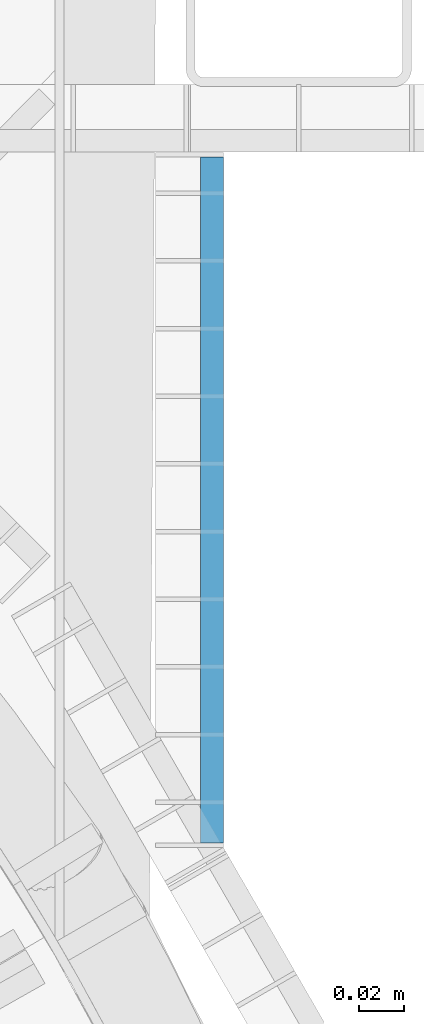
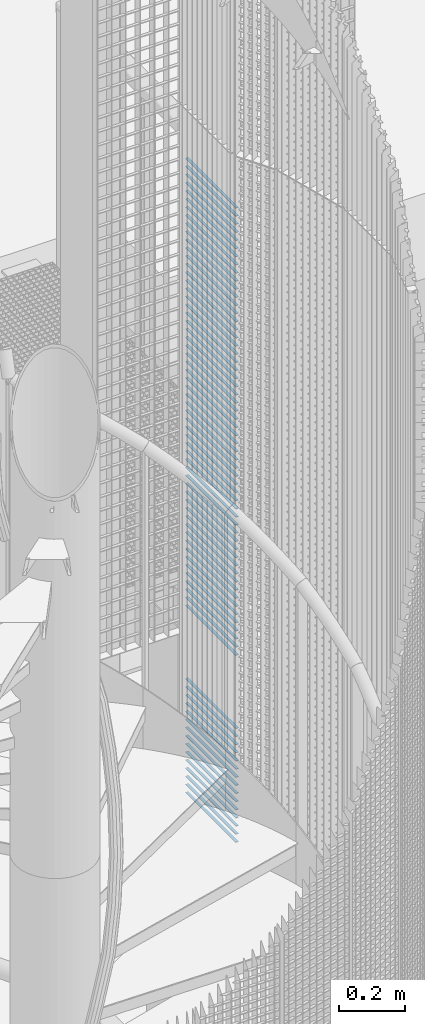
# One storey, part 285 of 1183: 71 beams, 1 element without a shape of its own.
"""IFC2X3 building model written with IfcOpenShell, lengths in millimetres."""

import ifcopenshell
import ifcopenshell.guid

model = None  # the IFC model being written
_history = None  # IfcOwnerHistory: only IFC2X3 demands one
_inside = {}  # id of a spatial element -> (the spatial element, [elements in it])
_under = {}  # id of a project, library or spatial element -> (it, [spatial elements below it])
_declared = {}  # id of a project -> (the project, [libraries it declares])
_typed = {}  # id of a type object -> (the type object, [elements of that type])
_made_of = {}  # id of a material, layer set ... -> (it, [elements and type objects made of it])


def new_model(schema):
    """Start an empty IFC model of exactly this schema.

    Asked for "IFC4X3", IfcOpenShell would pick the latest addendum, in which some entities
    have other attributes; the version numbers below select the first issue.
    IFC2X3 requires an IfcOwnerHistory on every rooted entity: one is made here for all.
    """
    global model, _history
    if schema == "IFC4X3":
        model = ifcopenshell.file(schema_version=(4, 3, 0, 0))
    else:
        model = ifcopenshell.file(schema=schema)
    _inside.clear()
    _under.clear()
    _declared.clear()
    _typed.clear()
    _made_of.clear()
    _history = None
    if model.schema == "IFC2X3":
        org = make("IfcOrganization", Name="unknown")
        user = make(
            "IfcPersonAndOrganization",
            ThePerson=make("IfcPerson", FamilyName="unknown"),
            TheOrganization=org,
        )
        app = make(
            "IfcApplication",
            ApplicationDeveloper=org,
            Version="unknown",
            ApplicationFullName="unknown",
            ApplicationIdentifier="unknown",
        )
        _history = make(
            "IfcOwnerHistory",
            OwningUser=user,
            OwningApplication=app,
            ChangeAction="ADDED",
            CreationDate=0,
        )
    return model


def make(cls, **values):
    """One entity of the class cls with the attributes given. An attribute that is None is left unset."""
    return model.create_entity(
        cls, **{name: value for name, value in values.items() if value is not None}
    )


def rooted(cls, **values):
    """An entity with a GlobalId (a new one), such as an element, a storey or a relation."""
    return make(cls, GlobalId=ifcopenshell.guid.new(), OwnerHistory=_history, **values)


def si_unit(unit_type, name, prefix=None):
    """IfcSIUnit, for example si_unit("LENGTHUNIT", "METRE", prefix="MILLI")."""
    return make("IfcSIUnit", UnitType=unit_type, Prefix=prefix, Name=name)


def assignment(units):
    """IfcUnitAssignment: the units of a project."""
    return None if units is None else make("IfcUnitAssignment", Units=units)


def point(xyz):
    """IfcCartesianPoint."""
    return None if xyz is None else make("IfcCartesianPoint", Coordinates=xyz)


def direction(xyz):
    """IfcDirection."""
    return None if xyz is None else make("IfcDirection", DirectionRatios=xyz)


def frame(location, z_axis=None, x_axis=None):
    """IfcAxis2Placement3D, a coordinate frame: its origin and axes. An axis left out is left unset."""
    return make(
        "IfcAxis2Placement3D",
        Location=point(location),
        Axis=direction(z_axis),
        RefDirection=direction(x_axis),
    )


def frame_2d(location, x_axis=None):
    """IfcAxis2Placement2D, a coordinate frame in the plane: its origin and x axis."""
    return make(
        "IfcAxis2Placement2D", Location=point(location), RefDirection=direction(x_axis)
    )


def origin_with_axes():
    """The frame at (0, 0, 0) with the z axis (0, 0, 1) and the x axis (1, 0, 0) written out."""
    return frame((0.0, 0.0, 0.0), z_axis=(0.0, 0.0, 1.0), x_axis=(1.0, 0.0, 0.0))


def origin_2d_with_axis():
    """The frame at (0, 0) in the plane with the x axis (1, 0) written out."""
    return frame_2d((0.0, 0.0), x_axis=(1.0, 0.0))


def place(relative_to, where):
    """IfcLocalPlacement: puts the frame where relative to a parent placement (None: the world)."""
    return make(
        "IfcLocalPlacement", PlacementRelTo=relative_to, RelativePlacement=where
    )


def context(
    kind, dimensions, precision=None, world=None, true_north=None, identifier=None
):
    """IfcGeometricRepresentationContext, for example the 3D "Model" context."""
    return make(
        "IfcGeometricRepresentationContext",
        ContextIdentifier=identifier,
        ContextType=kind,
        CoordinateSpaceDimension=dimensions,
        Precision=precision,
        WorldCoordinateSystem=world,
        TrueNorth=true_north,
    )


def subcontext(parent, identifier, kind, view, scale=None):
    """IfcGeometricRepresentationSubContext, for example "Body" below "Model"."""
    return make(
        "IfcGeometricRepresentationSubContext",
        ContextIdentifier=identifier,
        ContextType=kind,
        ParentContext=parent,
        TargetScale=scale,
        TargetView=view,
    )


def project(units=None, contexts=None):
    """IfcProject with its units and contexts."""
    return rooted(
        "IfcProject",
        Name="project",
        RepresentationContexts=contexts,
        UnitsInContext=assignment(units),
    )


def spatial(cls, under=None, at=None, **own):
    """A site, building, storey or space (cls), placed at a placement, below another one or the project."""
    s = rooted(cls, ObjectPlacement=at, **own)
    if under is not None:
        _under.setdefault(under.id(), (under, []))[1].append(s)
    return s


def profile(cls, at=None, kind="AREA", **sizes):
    """A parametric profile (cls). Its sizes go by their IFC names, for example OverallWidth=200.0."""
    return make(cls, ProfileType=kind, Position=at, **sizes)


def rectangle(**sizes):
    """IfcRectangleProfileDef."""
    return profile("IfcRectangleProfileDef", **sizes)


def extrude(swept, where, along, depth):
    """IfcExtrudedAreaSolid: the profile swept, set in the frame where, extruded along a direction by depth."""
    return make(
        "IfcExtrudedAreaSolid",
        SweptArea=swept,
        Position=where,
        ExtrudedDirection=direction(along),
        Depth=depth,
    )


def shape(context_of_items, identifier, shape_type, items):
    """IfcShapeRepresentation: the items that make up one representation, for example the "Body"."""
    return make(
        "IfcShapeRepresentation",
        ContextOfItems=context_of_items,
        RepresentationIdentifier=identifier,
        RepresentationType=shape_type,
        Items=items,
    )


def material(Name=None, Category=None):
    """IfcMaterial."""
    return make("IfcMaterial", Name=Name, Category=Category)


def made_of(thing, what):
    """Note that an element or type object is made of a material, layer set ...; save() writes the relation."""
    if what is not None:
        _made_of.setdefault(what.id(), (what, []))[1].append(thing)
    return thing


def type_object(cls, material=None, **own):
    """A type object (cls), such as IfcWallType, which elements share."""
    return made_of(rooted(cls, **own), material)


def element(
    cls,
    number,
    at=None,
    inside=None,
    cuts=None,
    type_object=None,
    material=None,
    context=None,
    identifier="Body",
    shape_type=None,
    held_by="IfcProductDefinitionShape",
    body=None,
    shapes=None,
    **own,
):
    """One element of the class cls, such as IfcWall. Its Tag is "e" and its number.

    at: its placement. inside: the storey or other place that contains it. cuts: it is an
    opening in that element (IfcRelVoidsElement). A single representation is given by context,
    identifier, shape_type and body (its items); several are given by shapes. held_by: the class
    of the entity that holds the representations. save() writes the other relations.
    """
    e = rooted(cls, Tag="e%d" % number, ObjectPlacement=at, **own)
    if body is not None:
        shapes = [shape(context, identifier, shape_type, body)]
    if shapes is not None:
        e.Representation = make(held_by, Representations=shapes)
    if inside is not None:
        _inside.setdefault(inside.id(), (inside, []))[1].append(e)
    if cuts is not None:
        rooted(
            "IfcRelVoidsElement", RelatingBuildingElement=cuts, RelatedOpeningElement=e
        )
    if type_object is not None:
        _typed.setdefault(type_object.id(), (type_object, []))[1].append(e)
    return made_of(e, material)


def aggregate(whole, parts):
    """IfcRelAggregates: a whole, such as a stair, and the parts it consists of."""
    return rooted("IfcRelAggregates", RelatingObject=whole, RelatedObjects=parts)


def save(model, path):
    """Write the relations noted so far, then the file.

    IfcRelAggregates (storeys below a building ...), IfcRelContainedInSpatialStructure (elements
    in a storey), IfcRelDefinesByType, IfcRelAssociatesMaterial and IfcRelDeclares: one each for
    every whole, place, type object, material and project.
    """
    for whole, parts in _under.values():
        aggregate(whole, parts)
    for where, things in _inside.values():
        rooted(
            "IfcRelContainedInSpatialStructure",
            RelatedElements=things,
            RelatingStructure=where,
        )
    for kind, things in _typed.values():
        rooted("IfcRelDefinesByType", RelatedObjects=things, RelatingType=kind)
    for what, things in _made_of.values():
        rooted("IfcRelAssociatesMaterial", RelatedObjects=things, RelatingMaterial=what)
    for by, libraries in _declared.values():
        rooted("IfcRelDeclares", RelatingContext=by, RelatedDefinitions=libraries)
    model.write(path)


model = new_model("IFC2X3")

# Units and contexts
model_context = context("Model", 3, precision=1e-05, world=origin_with_axes())
body_context = subcontext(model_context, "Body", "Model", "MODEL_VIEW")
ifc_project = project(units=[si_unit("LENGTHUNIT", "METRE", prefix="MILLI"), si_unit("AREAUNIT", "SQUARE_METRE"), si_unit("VOLUMEUNIT", "CUBIC_METRE"), si_unit("MASSUNIT", "GRAM", prefix="KILO"), si_unit("TIMEUNIT", "SECOND"), si_unit("PLANEANGLEUNIT", "RADIAN"), si_unit("SOLIDANGLEUNIT", "STERADIAN"), si_unit("THERMODYNAMICTEMPERATUREUNIT", "DEGREE_CELSIUS"), si_unit("LUMINOUSINTENSITYUNIT", "LUMEN")], contexts=[model_context])

# Site, building, storey
site_placement = place(None, origin_with_axes())
site = spatial("IfcSite", under=ifc_project, at=site_placement, Name="Undefined", CompositionType="ELEMENT")
building_placement = place(site_placement, origin_with_axes())
building = spatial("IfcBuilding", under=site, at=building_placement, Name="Undefined", CompositionType="ELEMENT")
storey_placement = place(building_placement, origin_with_axes())
storey = spatial("IfcBuildingStorey", under=building, at=storey_placement, Name="Undefined", CompositionType="ELEMENT", Elevation=0.0)

# Assembly, beams
assembly_placement = place(storey_placement, origin_with_axes())
assembly = element("IfcElementAssembly", 1, at=assembly_placement, inside=storey, Name="BORDURE", AssemblyPlace="NOTDEFINED", PredefinedType="NOTDEFINED")
ifc_material = material(Name="STEEL/S235JR")
beam_type = type_object("IfcBeamType", Name="PL2*10", PredefinedType="NOTDEFINED")
beam_1_placement = place(assembly_placement, frame((961.586915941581, 564.782669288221, 11790.0), z_axis=(1.0, 0.0, 0.0), x_axis=(0.0, 1.0, 0.0)))
beam_1 = element("IfcBeam", 2, at=beam_1_placement, type_object=beam_type, material=ifc_material, Name="ENTRETOISE", context=body_context, shape_type="SweptSolid", body=[
    extrude(rectangle(XDim=2.0, YDim=10.0, at=origin_2d_with_axis()), frame((303.999999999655, 0.0, 0.0), z_axis=(-1.0, 0.0, 0.0), x_axis=(0.0, -1.0, 0.0)), (0.0, 0.0, 1.0), 304.0),
])
beam_2_placement = place(assembly_placement, frame((961.586915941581, 564.782669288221, 11760.0), z_axis=(1.0, 0.0, 0.0), x_axis=(0.0, 1.0, 0.0)))
beam_2 = element("IfcBeam", 3, at=beam_2_placement, type_object=beam_type, material=ifc_material, Name="ENTRETOISE", context=body_context, shape_type="SweptSolid", body=[
    extrude(rectangle(XDim=2.0, YDim=10.0, at=origin_2d_with_axis()), frame((303.999999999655, 0.0, 0.0), z_axis=(-1.0, 0.0, 0.0), x_axis=(0.0, -1.0, 0.0)), (0.0, 0.0, 1.0), 304.0),
])
beam_3_placement = place(assembly_placement, frame((961.586915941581, 564.782669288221, 11730.0), z_axis=(1.0, 0.0, 0.0), x_axis=(0.0, 1.0, 0.0)))
beam_3 = element("IfcBeam", 4, at=beam_3_placement, type_object=beam_type, material=ifc_material, Name="ENTRETOISE", context=body_context, shape_type="SweptSolid", body=[
    extrude(rectangle(XDim=2.0, YDim=10.0, at=origin_2d_with_axis()), frame((303.999999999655, 0.0, 0.0), z_axis=(-1.0, 0.0, 0.0), x_axis=(0.0, -1.0, 0.0)), (0.0, 0.0, 1.0), 304.0),
])
beam_4_placement = place(assembly_placement, frame((961.586915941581, 564.782669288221, 11700.0), z_axis=(1.0, 0.0, 0.0), x_axis=(0.0, 1.0, 0.0)))
beam_4 = element("IfcBeam", 5, at=beam_4_placement, type_object=beam_type, material=ifc_material, Name="ENTRETOISE", context=body_context, shape_type="SweptSolid", body=[
    extrude(rectangle(XDim=2.0, YDim=10.0, at=origin_2d_with_axis()), frame((303.999999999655, 0.0, 0.0), z_axis=(-1.0, 0.0, 0.0), x_axis=(0.0, -1.0, 0.0)), (0.0, 0.0, 1.0), 304.0),
])
beam_5_placement = place(assembly_placement, frame((961.586915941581, 564.782669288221, 11670.0), z_axis=(1.0, 0.0, 0.0), x_axis=(0.0, 1.0, 0.0)))
beam_5 = element("IfcBeam", 6, at=beam_5_placement, type_object=beam_type, material=ifc_material, Name="ENTRETOISE", context=body_context, shape_type="SweptSolid", body=[
    extrude(rectangle(XDim=2.0, YDim=10.0, at=origin_2d_with_axis()), frame((303.999999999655, 0.0, 0.0), z_axis=(-1.0, 0.0, 0.0), x_axis=(0.0, -1.0, 0.0)), (0.0, 0.0, 1.0), 304.0),
])
beam_6_placement = place(assembly_placement, frame((961.586915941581, 564.782669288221, 11640.0), z_axis=(1.0, 0.0, 0.0), x_axis=(0.0, 1.0, 0.0)))
beam_6 = element("IfcBeam", 7, at=beam_6_placement, type_object=beam_type, material=ifc_material, Name="ENTRETOISE", context=body_context, shape_type="SweptSolid", body=[
    extrude(rectangle(XDim=2.0, YDim=10.0, at=origin_2d_with_axis()), frame((303.999999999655, 0.0, 0.0), z_axis=(-1.0, 0.0, 0.0), x_axis=(0.0, -1.0, 0.0)), (0.0, 0.0, 1.0), 304.0),
])
beam_7_placement = place(assembly_placement, frame((961.586915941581, 564.782669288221, 11610.0), z_axis=(1.0, 0.0, 0.0), x_axis=(0.0, 1.0, 0.0)))
beam_7 = element("IfcBeam", 8, at=beam_7_placement, type_object=beam_type, material=ifc_material, Name="ENTRETOISE", context=body_context, shape_type="SweptSolid", body=[
    extrude(rectangle(XDim=2.0, YDim=10.0, at=origin_2d_with_axis()), frame((303.999999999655, 0.0, 0.0), z_axis=(-1.0, 0.0, 0.0), x_axis=(0.0, -1.0, 0.0)), (0.0, 0.0, 1.0), 304.0),
])
beam_8_placement = place(assembly_placement, frame((961.586915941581, 564.782669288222, 11580.0), z_axis=(1.0, 0.0, 0.0), x_axis=(0.0, 1.0, 0.0)))
beam_8 = element("IfcBeam", 9, at=beam_8_placement, type_object=beam_type, material=ifc_material, Name="ENTRETOISE", context=body_context, shape_type="SweptSolid", body=[
    extrude(rectangle(XDim=2.0, YDim=10.0, at=origin_2d_with_axis()), frame((303.999999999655, 0.0, 0.0), z_axis=(-1.0, 0.0, 0.0), x_axis=(0.0, -1.0, 0.0)), (0.0, 0.0, 1.0), 304.0),
])
beam_9_placement = place(assembly_placement, frame((961.586915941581, 564.782669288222, 11550.0), z_axis=(1.0, 0.0, 0.0), x_axis=(0.0, 1.0, 0.0)))
beam_9 = element("IfcBeam", 10, at=beam_9_placement, type_object=beam_type, material=ifc_material, Name="ENTRETOISE", context=body_context, shape_type="SweptSolid", body=[
    extrude(rectangle(XDim=2.0, YDim=10.0, at=origin_2d_with_axis()), frame((303.999999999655, 0.0, 0.0), z_axis=(-1.0, 0.0, 0.0), x_axis=(0.0, -1.0, 0.0)), (0.0, 0.0, 1.0), 304.0),
])
beam_10_placement = place(assembly_placement, frame((961.586915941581, 564.782669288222, 11520.0), z_axis=(1.0, 0.0, 0.0), x_axis=(0.0, 1.0, 0.0)))
beam_10 = element("IfcBeam", 11, at=beam_10_placement, type_object=beam_type, material=ifc_material, Name="ENTRETOISE", context=body_context, shape_type="SweptSolid", body=[
    extrude(rectangle(XDim=2.0, YDim=10.0, at=origin_2d_with_axis()), frame((303.999999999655, 0.0, 0.0), z_axis=(-1.0, 0.0, 0.0), x_axis=(0.0, -1.0, 0.0)), (0.0, 0.0, 1.0), 304.0),
])
beam_11_placement = place(assembly_placement, frame((961.586915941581, 564.782669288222, 11490.0), z_axis=(1.0, 0.0, 0.0), x_axis=(0.0, 1.0, 0.0)))
beam_11 = element("IfcBeam", 12, at=beam_11_placement, type_object=beam_type, material=ifc_material, Name="ENTRETOISE", context=body_context, shape_type="SweptSolid", body=[
    extrude(rectangle(XDim=2.0, YDim=10.0, at=origin_2d_with_axis()), frame((303.999999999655, 0.0, 0.0), z_axis=(-1.0, 0.0, 0.0), x_axis=(0.0, -1.0, 0.0)), (0.0, 0.0, 1.0), 304.0),
])
beam_12_placement = place(assembly_placement, frame((961.586915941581, 564.782669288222, 11460.0), z_axis=(1.0, 0.0, 0.0), x_axis=(0.0, 1.0, 0.0)))
beam_12 = element("IfcBeam", 13, at=beam_12_placement, type_object=beam_type, material=ifc_material, Name="ENTRETOISE", context=body_context, shape_type="SweptSolid", body=[
    extrude(rectangle(XDim=2.0, YDim=10.0, at=origin_2d_with_axis()), frame((303.999999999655, 0.0, 0.0), z_axis=(-1.0, 0.0, 0.0), x_axis=(0.0, -1.0, 0.0)), (0.0, 0.0, 1.0), 304.0),
])
beam_13_placement = place(assembly_placement, frame((961.586915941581, 564.782669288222, 11430.0), z_axis=(1.0, 0.0, 0.0), x_axis=(0.0, 1.0, 0.0)))
beam_13 = element("IfcBeam", 14, at=beam_13_placement, type_object=beam_type, material=ifc_material, Name="ENTRETOISE", context=body_context, shape_type="SweptSolid", body=[
    extrude(rectangle(XDim=2.0, YDim=10.0, at=origin_2d_with_axis()), frame((303.999999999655, 0.0, 0.0), z_axis=(-1.0, 0.0, 0.0), x_axis=(0.0, -1.0, 0.0)), (0.0, 0.0, 1.0), 304.0),
])
beam_14_placement = place(assembly_placement, frame((961.586915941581, 564.782669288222, 11400.0), z_axis=(1.0, 0.0, 0.0), x_axis=(0.0, 1.0, 0.0)))
beam_14 = element("IfcBeam", 15, at=beam_14_placement, type_object=beam_type, material=ifc_material, Name="ENTRETOISE", context=body_context, shape_type="SweptSolid", body=[
    extrude(rectangle(XDim=2.0, YDim=10.0, at=origin_2d_with_axis()), frame((303.999999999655, 0.0, 0.0), z_axis=(-1.0, 0.0, 0.0), x_axis=(0.0, -1.0, 0.0)), (0.0, 0.0, 1.0), 304.0),
])
beam_15_placement = place(assembly_placement, frame((961.586915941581, 564.782669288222, 11370.0), z_axis=(1.0, 0.0, 0.0), x_axis=(0.0, 1.0, 0.0)))
beam_15 = element("IfcBeam", 16, at=beam_15_placement, type_object=beam_type, material=ifc_material, Name="ENTRETOISE", context=body_context, shape_type="SweptSolid", body=[
    extrude(rectangle(XDim=2.0, YDim=10.0, at=origin_2d_with_axis()), frame((303.999999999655, 0.0, 0.0), z_axis=(-1.0, 0.0, 0.0), x_axis=(0.0, -1.0, 0.0)), (0.0, 0.0, 1.0), 304.0),
])
beam_16_placement = place(assembly_placement, frame((961.586915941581, 564.782669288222, 11340.0), z_axis=(1.0, 0.0, 0.0), x_axis=(0.0, 1.0, 0.0)))
beam_16 = element("IfcBeam", 17, at=beam_16_placement, type_object=beam_type, material=ifc_material, Name="ENTRETOISE", context=body_context, shape_type="SweptSolid", body=[
    extrude(rectangle(XDim=2.0, YDim=10.0, at=origin_2d_with_axis()), frame((303.999999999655, 0.0, 0.0), z_axis=(-1.0, 0.0, 0.0), x_axis=(0.0, -1.0, 0.0)), (0.0, 0.0, 1.0), 304.0),
])
beam_17_placement = place(assembly_placement, frame((961.586915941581, 564.782669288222, 11310.0), z_axis=(1.0, 0.0, 0.0), x_axis=(0.0, 1.0, 0.0)))
beam_17 = element("IfcBeam", 18, at=beam_17_placement, type_object=beam_type, material=ifc_material, Name="ENTRETOISE", context=body_context, shape_type="SweptSolid", body=[
    extrude(rectangle(XDim=2.0, YDim=10.0, at=origin_2d_with_axis()), frame((303.999999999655, 0.0, 0.0), z_axis=(-1.0, 0.0, 0.0), x_axis=(0.0, -1.0, 0.0)), (0.0, 0.0, 1.0), 304.0),
])
beam_18_placement = place(assembly_placement, frame((961.586915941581, 564.782669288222, 11280.0), z_axis=(1.0, 0.0, 0.0), x_axis=(0.0, 1.0, 0.0)))
beam_18 = element("IfcBeam", 19, at=beam_18_placement, type_object=beam_type, material=ifc_material, Name="ENTRETOISE", context=body_context, shape_type="SweptSolid", body=[
    extrude(rectangle(XDim=2.0, YDim=10.0, at=origin_2d_with_axis()), frame((303.999999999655, 0.0, 0.0), z_axis=(-1.0, 0.0, 0.0), x_axis=(0.0, -1.0, 0.0)), (0.0, 0.0, 1.0), 304.0),
])
beam_19_placement = place(assembly_placement, frame((961.586915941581, 564.782669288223, 11250.0), z_axis=(1.0, 0.0, 0.0), x_axis=(0.0, 1.0, 0.0)))
beam_19 = element("IfcBeam", 20, at=beam_19_placement, type_object=beam_type, material=ifc_material, Name="ENTRETOISE", context=body_context, shape_type="SweptSolid", body=[
    extrude(rectangle(XDim=2.0, YDim=10.0, at=origin_2d_with_axis()), frame((303.999999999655, 0.0, 0.0), z_axis=(-1.0, 0.0, 0.0), x_axis=(0.0, -1.0, 0.0)), (0.0, 0.0, 1.0), 304.0),
])
beam_20_placement = place(assembly_placement, frame((961.586915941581, 564.782669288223, 11220.0), z_axis=(1.0, 0.0, 0.0), x_axis=(0.0, 1.0, 0.0)))
beam_20 = element("IfcBeam", 21, at=beam_20_placement, type_object=beam_type, material=ifc_material, Name="ENTRETOISE", context=body_context, shape_type="SweptSolid", body=[
    extrude(rectangle(XDim=2.0, YDim=10.0, at=origin_2d_with_axis()), frame((303.999999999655, 0.0, 0.0), z_axis=(-1.0, 0.0, 0.0), x_axis=(0.0, -1.0, 0.0)), (0.0, 0.0, 1.0), 304.0),
])
beam_21_placement = place(assembly_placement, frame((961.586915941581, 564.782669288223, 11190.0), z_axis=(1.0, 0.0, 0.0), x_axis=(0.0, 1.0, 0.0)))
beam_21 = element("IfcBeam", 22, at=beam_21_placement, type_object=beam_type, material=ifc_material, Name="ENTRETOISE", context=body_context, shape_type="SweptSolid", body=[
    extrude(rectangle(XDim=2.0, YDim=10.0, at=origin_2d_with_axis()), frame((303.999999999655, 0.0, 0.0), z_axis=(-1.0, 0.0, 0.0), x_axis=(0.0, -1.0, 0.0)), (0.0, 0.0, 1.0), 304.0),
])
beam_22_placement = place(assembly_placement, frame((961.586915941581, 564.782669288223, 11160.0), z_axis=(1.0, 0.0, 0.0), x_axis=(0.0, 1.0, 0.0)))
beam_22 = element("IfcBeam", 23, at=beam_22_placement, type_object=beam_type, material=ifc_material, Name="ENTRETOISE", context=body_context, shape_type="SweptSolid", body=[
    extrude(rectangle(XDim=2.0, YDim=10.0, at=origin_2d_with_axis()), frame((303.999999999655, 0.0, 0.0), z_axis=(-1.0, 0.0, 0.0), x_axis=(0.0, -1.0, 0.0)), (0.0, 0.0, 1.0), 304.0),
])
beam_23_placement = place(assembly_placement, frame((961.586915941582, 564.782669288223, 11130.0), z_axis=(1.0, 0.0, 0.0), x_axis=(0.0, 1.0, 0.0)))
beam_23 = element("IfcBeam", 24, at=beam_23_placement, type_object=beam_type, material=ifc_material, Name="ENTRETOISE", context=body_context, shape_type="SweptSolid", body=[
    extrude(rectangle(XDim=2.0, YDim=10.0, at=origin_2d_with_axis()), frame((303.999999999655, 0.0, 0.0), z_axis=(-1.0, 0.0, 0.0), x_axis=(0.0, -1.0, 0.0)), (0.0, 0.0, 1.0), 304.0),
])
beam_24_placement = place(assembly_placement, frame((961.586915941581, 564.782669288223, 11100.0), z_axis=(1.0, 0.0, 0.0), x_axis=(0.0, 1.0, 0.0)))
beam_24 = element("IfcBeam", 25, at=beam_24_placement, type_object=beam_type, material=ifc_material, Name="ENTRETOISE", context=body_context, shape_type="SweptSolid", body=[
    extrude(rectangle(XDim=2.0, YDim=10.0, at=origin_2d_with_axis()), frame((303.999999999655, 0.0, 0.0), z_axis=(-1.0, 0.0, 0.0), x_axis=(0.0, -1.0, 0.0)), (0.0, 0.0, 1.0), 304.0),
])
beam_25_placement = place(assembly_placement, frame((961.586915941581, 564.782669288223, 11070.0), z_axis=(1.0, 0.0, 0.0), x_axis=(0.0, 1.0, 0.0)))
beam_25 = element("IfcBeam", 26, at=beam_25_placement, type_object=beam_type, material=ifc_material, Name="ENTRETOISE", context=body_context, shape_type="SweptSolid", body=[
    extrude(rectangle(XDim=2.0, YDim=10.0, at=origin_2d_with_axis()), frame((303.999999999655, 0.0, 0.0), z_axis=(-1.0, 0.0, 0.0), x_axis=(0.0, -1.0, 0.0)), (0.0, 0.0, 1.0), 304.0),
])
beam_26_placement = place(assembly_placement, frame((961.586915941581, 564.782669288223, 11040.0), z_axis=(1.0, 0.0, 0.0), x_axis=(0.0, 1.0, 0.0)))
beam_26 = element("IfcBeam", 27, at=beam_26_placement, type_object=beam_type, material=ifc_material, Name="ENTRETOISE", context=body_context, shape_type="SweptSolid", body=[
    extrude(rectangle(XDim=2.0, YDim=10.0, at=origin_2d_with_axis()), frame((303.999999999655, 0.0, 0.0), z_axis=(-1.0, 0.0, 0.0), x_axis=(0.0, -1.0, 0.0)), (0.0, 0.0, 1.0), 304.0),
])
beam_27_placement = place(assembly_placement, frame((961.586915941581, 564.782669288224, 11010.0), z_axis=(1.0, 0.0, 0.0), x_axis=(0.0, 1.0, 0.0)))
beam_27 = element("IfcBeam", 28, at=beam_27_placement, type_object=beam_type, material=ifc_material, Name="ENTRETOISE", context=body_context, shape_type="SweptSolid", body=[
    extrude(rectangle(XDim=2.0, YDim=10.0, at=origin_2d_with_axis()), frame((303.999999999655, 0.0, 0.0), z_axis=(-1.0, 0.0, 0.0), x_axis=(0.0, -1.0, 0.0)), (0.0, 0.0, 1.0), 304.0),
])
beam_28_placement = place(assembly_placement, frame((961.586915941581, 564.782669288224, 10980.0), z_axis=(1.0, 0.0, 0.0), x_axis=(0.0, 1.0, 0.0)))
beam_28 = element("IfcBeam", 29, at=beam_28_placement, type_object=beam_type, material=ifc_material, Name="ENTRETOISE", context=body_context, shape_type="SweptSolid", body=[
    extrude(rectangle(XDim=2.0, YDim=10.0, at=origin_2d_with_axis()), frame((303.999999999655, 0.0, 0.0), z_axis=(-1.0, 0.0, 0.0), x_axis=(0.0, -1.0, 0.0)), (0.0, 0.0, 1.0), 304.0),
])
beam_29_placement = place(assembly_placement, frame((961.586915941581, 564.782669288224, 10950.0), z_axis=(1.0, 0.0, 0.0), x_axis=(0.0, 1.0, 0.0)))
beam_29 = element("IfcBeam", 30, at=beam_29_placement, type_object=beam_type, material=ifc_material, Name="ENTRETOISE", context=body_context, shape_type="SweptSolid", body=[
    extrude(rectangle(XDim=2.0, YDim=10.0, at=origin_2d_with_axis()), frame((303.999999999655, 0.0, 0.0), z_axis=(-1.0, 0.0, 0.0), x_axis=(0.0, -1.0, 0.0)), (0.0, 0.0, 1.0), 304.0),
])
beam_30_placement = place(assembly_placement, frame((961.586915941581, 564.782669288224, 10920.0), z_axis=(1.0, 0.0, 0.0), x_axis=(0.0, 1.0, 0.0)))
beam_30 = element("IfcBeam", 31, at=beam_30_placement, type_object=beam_type, material=ifc_material, Name="ENTRETOISE", context=body_context, shape_type="SweptSolid", body=[
    extrude(rectangle(XDim=2.0, YDim=10.0, at=origin_2d_with_axis()), frame((303.999999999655, 0.0, 0.0), z_axis=(-1.0, 0.0, 0.0), x_axis=(0.0, -1.0, 0.0)), (0.0, 0.0, 1.0), 304.0),
])
beam_31_placement = place(assembly_placement, frame((961.586915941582, 564.782669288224, 10890.0), z_axis=(1.0, 0.0, 0.0), x_axis=(0.0, 1.0, 0.0)))
beam_31 = element("IfcBeam", 32, at=beam_31_placement, type_object=beam_type, material=ifc_material, Name="ENTRETOISE", context=body_context, shape_type="SweptSolid", body=[
    extrude(rectangle(XDim=2.0, YDim=10.0, at=origin_2d_with_axis()), frame((303.999999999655, 0.0, 0.0), z_axis=(-1.0, 0.0, 0.0), x_axis=(0.0, -1.0, 0.0)), (0.0, 0.0, 1.0), 304.0),
])
beam_32_placement = place(assembly_placement, frame((961.586915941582, 564.782669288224, 10860.0), z_axis=(1.0, 0.0, 0.0), x_axis=(0.0, 1.0, 0.0)))
beam_32 = element("IfcBeam", 33, at=beam_32_placement, type_object=beam_type, material=ifc_material, Name="ENTRETOISE", context=body_context, shape_type="SweptSolid", body=[
    extrude(rectangle(XDim=2.0, YDim=10.0, at=origin_2d_with_axis()), frame((303.999999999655, 0.0, 0.0), z_axis=(-1.0, 0.0, 0.0), x_axis=(0.0, -1.0, 0.0)), (0.0, 0.0, 1.0), 304.0),
])
beam_33_placement = place(assembly_placement, frame((961.586915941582, 564.782669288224, 10830.0), z_axis=(1.0, 0.0, 0.0), x_axis=(0.0, 1.0, 0.0)))
beam_33 = element("IfcBeam", 34, at=beam_33_placement, type_object=beam_type, material=ifc_material, Name="ENTRETOISE", context=body_context, shape_type="SweptSolid", body=[
    extrude(rectangle(XDim=2.0, YDim=10.0, at=origin_2d_with_axis()), frame((303.999999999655, 0.0, 0.0), z_axis=(-1.0, 0.0, 0.0), x_axis=(0.0, -1.0, 0.0)), (0.0, 0.0, 1.0), 304.0),
])
beam_34_placement = place(assembly_placement, frame((961.586915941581, 564.782669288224, 10800.0), z_axis=(1.0, 0.0, 0.0), x_axis=(0.0, 1.0, 0.0)))
beam_34 = element("IfcBeam", 35, at=beam_34_placement, type_object=beam_type, material=ifc_material, Name="ENTRETOISE", context=body_context, shape_type="SweptSolid", body=[
    extrude(rectangle(XDim=2.0, YDim=10.0, at=origin_2d_with_axis()), frame((303.999999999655, 0.0, 0.0), z_axis=(-1.0, 0.0, 0.0), x_axis=(0.0, -1.0, 0.0)), (0.0, 0.0, 1.0), 304.0),
])
beam_35_placement = place(assembly_placement, frame((961.586915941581, 564.782669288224, 10770.0), z_axis=(1.0, 0.0, 0.0), x_axis=(0.0, 1.0, 0.0)))
beam_35 = element("IfcBeam", 36, at=beam_35_placement, type_object=beam_type, material=ifc_material, Name="ENTRETOISE", context=body_context, shape_type="SweptSolid", body=[
    extrude(rectangle(XDim=2.0, YDim=10.0, at=origin_2d_with_axis()), frame((303.999999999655, 0.0, 0.0), z_axis=(-1.0, 0.0, 0.0), x_axis=(0.0, -1.0, 0.0)), (0.0, 0.0, 1.0), 304.0),
])
beam_36_placement = place(assembly_placement, frame((961.586915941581, 564.782669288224, 10740.0), z_axis=(1.0, 0.0, 0.0), x_axis=(0.0, 1.0, 0.0)))
beam_36 = element("IfcBeam", 37, at=beam_36_placement, type_object=beam_type, material=ifc_material, Name="ENTRETOISE", context=body_context, shape_type="SweptSolid", body=[
    extrude(rectangle(XDim=2.0, YDim=10.0, at=origin_2d_with_axis()), frame((303.999999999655, 0.0, 0.0), z_axis=(-1.0, 0.0, 0.0), x_axis=(0.0, -1.0, 0.0)), (0.0, 0.0, 1.0), 304.0),
])
beam_37_placement = place(assembly_placement, frame((961.586915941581, 564.782669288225, 10710.0), z_axis=(1.0, 0.0, 0.0), x_axis=(0.0, 1.0, 0.0)))
beam_37 = element("IfcBeam", 38, at=beam_37_placement, type_object=beam_type, material=ifc_material, Name="ENTRETOISE", context=body_context, shape_type="SweptSolid", body=[
    extrude(rectangle(XDim=2.0, YDim=10.0, at=origin_2d_with_axis()), frame((303.999999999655, 0.0, 0.0), z_axis=(-1.0, 0.0, 0.0), x_axis=(0.0, -1.0, 0.0)), (0.0, 0.0, 1.0), 304.0),
])
beam_38_placement = place(assembly_placement, frame((961.586915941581, 564.782669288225, 10680.0), z_axis=(1.0, 0.0, 0.0), x_axis=(0.0, 1.0, 0.0)))
beam_38 = element("IfcBeam", 39, at=beam_38_placement, type_object=beam_type, material=ifc_material, Name="ENTRETOISE", context=body_context, shape_type="SweptSolid", body=[
    extrude(rectangle(XDim=2.0, YDim=10.0, at=origin_2d_with_axis()), frame((303.999999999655, 0.0, 0.0), z_axis=(-1.0, 0.0, 0.0), x_axis=(0.0, -1.0, 0.0)), (0.0, 0.0, 1.0), 304.0),
])
beam_39_placement = place(assembly_placement, frame((961.586915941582, 564.782669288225, 10650.0), z_axis=(1.0, 0.0, 0.0), x_axis=(0.0, 1.0, 0.0)))
beam_39 = element("IfcBeam", 40, at=beam_39_placement, type_object=beam_type, material=ifc_material, Name="ENTRETOISE", context=body_context, shape_type="SweptSolid", body=[
    extrude(rectangle(XDim=2.0, YDim=10.0, at=origin_2d_with_axis()), frame((303.999999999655, 0.0, 0.0), z_axis=(-1.0, 0.0, 0.0), x_axis=(0.0, -1.0, 0.0)), (0.0, 0.0, 1.0), 304.0),
])
beam_40_placement = place(assembly_placement, frame((961.586915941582, 564.782669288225, 10620.0), z_axis=(1.0, 0.0, 0.0), x_axis=(0.0, 1.0, 0.0)))
beam_40 = element("IfcBeam", 41, at=beam_40_placement, type_object=beam_type, material=ifc_material, Name="ENTRETOISE", context=body_context, shape_type="SweptSolid", body=[
    extrude(rectangle(XDim=2.0, YDim=10.0, at=origin_2d_with_axis()), frame((303.999999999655, 0.0, 0.0), z_axis=(-1.0, 0.0, 0.0), x_axis=(0.0, -1.0, 0.0)), (0.0, 0.0, 1.0), 304.0),
])
beam_41_placement = place(assembly_placement, frame((961.586915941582, 564.782669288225, 10590.0), z_axis=(1.0, 0.0, 0.0), x_axis=(0.0, 1.0, 0.0)))
beam_41 = element("IfcBeam", 42, at=beam_41_placement, type_object=beam_type, material=ifc_material, Name="ENTRETOISE", context=body_context, shape_type="SweptSolid", body=[
    extrude(rectangle(XDim=2.0, YDim=10.0, at=origin_2d_with_axis()), frame((303.999999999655, 0.0, 0.0), z_axis=(-1.0, 0.0, 0.0), x_axis=(0.0, -1.0, 0.0)), (0.0, 0.0, 1.0), 304.0),
])
beam_42_placement = place(assembly_placement, frame((961.586915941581, 564.782669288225, 10560.0), z_axis=(1.0, 0.0, 0.0), x_axis=(0.0, 1.0, 0.0)))
beam_42 = element("IfcBeam", 43, at=beam_42_placement, type_object=beam_type, material=ifc_material, Name="ENTRETOISE", context=body_context, shape_type="SweptSolid", body=[
    extrude(rectangle(XDim=2.0, YDim=10.0, at=origin_2d_with_axis()), frame((303.999999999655, 0.0, 0.0), z_axis=(-1.0, 0.0, 0.0), x_axis=(0.0, -1.0, 0.0)), (0.0, 0.0, 1.0), 304.0),
])
beam_43_placement = place(assembly_placement, frame((961.586915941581, 564.782669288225, 10530.0), z_axis=(1.0, 0.0, 0.0), x_axis=(0.0, 1.0, 0.0)))
beam_43 = element("IfcBeam", 44, at=beam_43_placement, type_object=beam_type, material=ifc_material, Name="ENTRETOISE", context=body_context, shape_type="SweptSolid", body=[
    extrude(rectangle(XDim=2.0, YDim=10.0, at=origin_2d_with_axis()), frame((303.999999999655, 0.0, 0.0), z_axis=(-1.0, 0.0, 0.0), x_axis=(0.0, -1.0, 0.0)), (0.0, 0.0, 1.0), 304.0),
])
beam_44_placement = place(assembly_placement, frame((961.586915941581, 564.782669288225, 10500.0), z_axis=(1.0, 0.0, 0.0), x_axis=(0.0, 1.0, 0.0)))
beam_44 = element("IfcBeam", 45, at=beam_44_placement, type_object=beam_type, material=ifc_material, Name="ENTRETOISE", context=body_context, shape_type="SweptSolid", body=[
    extrude(rectangle(XDim=2.0, YDim=10.0, at=origin_2d_with_axis()), frame((303.999999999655, 0.0, 0.0), z_axis=(-1.0, 0.0, 0.0), x_axis=(0.0, -1.0, 0.0)), (0.0, 0.0, 1.0), 304.0),
])
beam_45_placement = place(assembly_placement, frame((961.586915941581, 564.782669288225, 10470.0), z_axis=(1.0, 0.0, 0.0), x_axis=(0.0, 1.0, 0.0)))
beam_45 = element("IfcBeam", 46, at=beam_45_placement, type_object=beam_type, material=ifc_material, Name="ENTRETOISE", context=body_context, shape_type="SweptSolid", body=[
    extrude(rectangle(XDim=2.0, YDim=10.0, at=origin_2d_with_axis()), frame((303.999999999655, 0.0, 0.0), z_axis=(-1.0, 0.0, 0.0), x_axis=(0.0, -1.0, 0.0)), (0.0, 0.0, 1.0), 304.0),
])
beam_46_placement = place(assembly_placement, frame((961.586915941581, 564.782669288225, 10440.0), z_axis=(1.0, 0.0, 0.0), x_axis=(0.0, 1.0, 0.0)))
beam_46 = element("IfcBeam", 47, at=beam_46_placement, type_object=beam_type, material=ifc_material, Name="ENTRETOISE", context=body_context, shape_type="SweptSolid", body=[
    extrude(rectangle(XDim=2.0, YDim=10.0, at=origin_2d_with_axis()), frame((303.999999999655, 0.0, 0.0), z_axis=(-1.0, 0.0, 0.0), x_axis=(0.0, -1.0, 0.0)), (0.0, 0.0, 1.0), 304.0),
])
beam_47_placement = place(assembly_placement, frame((961.586915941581, 564.782669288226, 10410.0), z_axis=(1.0, 0.0, 0.0), x_axis=(0.0, 1.0, 0.0)))
beam_47 = element("IfcBeam", 48, at=beam_47_placement, type_object=beam_type, material=ifc_material, Name="ENTRETOISE", context=body_context, shape_type="SweptSolid", body=[
    extrude(rectangle(XDim=2.0, YDim=10.0, at=origin_2d_with_axis()), frame((303.999999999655, 0.0, 0.0), z_axis=(-1.0, 0.0, 0.0), x_axis=(0.0, -1.0, 0.0)), (0.0, 0.0, 1.0), 304.0),
])
beam_48_placement = place(assembly_placement, frame((961.586915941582, 564.782669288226, 10380.0), z_axis=(1.0, 0.0, 0.0), x_axis=(0.0, 1.0, 0.0)))
beam_48 = element("IfcBeam", 49, at=beam_48_placement, type_object=beam_type, material=ifc_material, Name="ENTRETOISE", context=body_context, shape_type="SweptSolid", body=[
    extrude(rectangle(XDim=2.0, YDim=10.0, at=origin_2d_with_axis()), frame((303.999999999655, 0.0, 0.0), z_axis=(-1.0, 0.0, 0.0), x_axis=(0.0, -1.0, 0.0)), (0.0, 0.0, 1.0), 304.0),
])
beam_49_placement = place(assembly_placement, frame((961.586915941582, 564.782669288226, 10350.0), z_axis=(1.0, 0.0, 0.0), x_axis=(0.0, 1.0, 0.0)))
beam_49 = element("IfcBeam", 50, at=beam_49_placement, type_object=beam_type, material=ifc_material, Name="ENTRETOISE", context=body_context, shape_type="SweptSolid", body=[
    extrude(rectangle(XDim=2.0, YDim=10.0, at=origin_2d_with_axis()), frame((303.999999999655, 0.0, 0.0), z_axis=(-1.0, 0.0, 0.0), x_axis=(0.0, -1.0, 0.0)), (0.0, 0.0, 1.0), 304.0),
])
beam_50_placement = place(assembly_placement, frame((961.586915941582, 564.782669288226, 10320.0), z_axis=(1.0, 0.0, 0.0), x_axis=(0.0, 1.0, 0.0)))
beam_50 = element("IfcBeam", 51, at=beam_50_placement, type_object=beam_type, material=ifc_material, Name="ENTRETOISE", context=body_context, shape_type="SweptSolid", body=[
    extrude(rectangle(XDim=2.0, YDim=10.0, at=origin_2d_with_axis()), frame((303.999999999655, 0.0, 0.0), z_axis=(-1.0, 0.0, 0.0), x_axis=(0.0, -1.0, 0.0)), (0.0, 0.0, 1.0), 304.0),
])
beam_51_placement = place(assembly_placement, frame((961.586915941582, 564.782669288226, 10290.0), z_axis=(1.0, 0.0, 0.0), x_axis=(0.0, 1.0, 0.0)))
beam_51 = element("IfcBeam", 52, at=beam_51_placement, type_object=beam_type, material=ifc_material, Name="ENTRETOISE", context=body_context, shape_type="SweptSolid", body=[
    extrude(rectangle(XDim=2.0, YDim=10.0, at=origin_2d_with_axis()), frame((303.999999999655, 0.0, 0.0), z_axis=(-1.0, 0.0, 0.0), x_axis=(0.0, -1.0, 0.0)), (0.0, 0.0, 1.0), 304.0),
])
beam_52_placement = place(assembly_placement, frame((961.586915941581, 564.782669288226, 10260.0), z_axis=(1.0, 0.0, 0.0), x_axis=(0.0, 1.0, 0.0)))
beam_52 = element("IfcBeam", 53, at=beam_52_placement, type_object=beam_type, material=ifc_material, Name="ENTRETOISE", context=body_context, shape_type="SweptSolid", body=[
    extrude(rectangle(XDim=2.0, YDim=10.0, at=origin_2d_with_axis()), frame((303.999999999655, 0.0, 0.0), z_axis=(-1.0, 0.0, 0.0), x_axis=(0.0, -1.0, 0.0)), (0.0, 0.0, 1.0), 304.0),
])
beam_53_placement = place(assembly_placement, frame((961.586915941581, 564.782669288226, 10230.0), z_axis=(1.0, 0.0, 0.0), x_axis=(0.0, 1.0, 0.0)))
beam_53 = element("IfcBeam", 54, at=beam_53_placement, type_object=beam_type, material=ifc_material, Name="ENTRETOISE", context=body_context, shape_type="SweptSolid", body=[
    extrude(rectangle(XDim=2.0, YDim=10.0, at=origin_2d_with_axis()), frame((303.999999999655, 0.0, 0.0), z_axis=(-1.0, 0.0, 0.0), x_axis=(0.0, -1.0, 0.0)), (0.0, 0.0, 1.0), 304.0),
])
beam_54_placement = place(assembly_placement, frame((961.586915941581, 564.782669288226, 10200.0), z_axis=(1.0, 0.0, 0.0), x_axis=(0.0, 1.0, 0.0)))
beam_54 = element("IfcBeam", 55, at=beam_54_placement, type_object=beam_type, material=ifc_material, Name="ENTRETOISE", context=body_context, shape_type="SweptSolid", body=[
    extrude(rectangle(XDim=2.0, YDim=10.0, at=origin_2d_with_axis()), frame((303.999999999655, 0.0, 0.0), z_axis=(-1.0, 0.0, 0.0), x_axis=(0.0, -1.0, 0.0)), (0.0, 0.0, 1.0), 304.0),
])
beam_55_placement = place(assembly_placement, frame((961.586915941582, 564.782669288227, 10170.0), z_axis=(1.0, 0.0, 0.0), x_axis=(0.0, 1.0, 0.0)))
beam_55 = element("IfcBeam", 56, at=beam_55_placement, type_object=beam_type, material=ifc_material, Name="ENTRETOISE", context=body_context, shape_type="SweptSolid", body=[
    extrude(rectangle(XDim=2.0, YDim=10.0, at=origin_2d_with_axis()), frame((303.999999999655, 0.0, 0.0), z_axis=(-1.0, 0.0, 0.0), x_axis=(0.0, -1.0, 0.0)), (0.0, 0.0, 1.0), 304.0),
])
beam_56_placement = place(assembly_placement, frame((961.586915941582, 564.782669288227, 10140.0), z_axis=(1.0, 0.0, 0.0), x_axis=(0.0, 1.0, 0.0)))
beam_56 = element("IfcBeam", 57, at=beam_56_placement, type_object=beam_type, material=ifc_material, Name="ENTRETOISE", context=body_context, shape_type="SweptSolid", body=[
    extrude(rectangle(XDim=2.0, YDim=10.0, at=origin_2d_with_axis()), frame((303.999999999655, 0.0, 0.0), z_axis=(-1.0, 0.0, 0.0), x_axis=(0.0, -1.0, 0.0)), (0.0, 0.0, 1.0), 304.0),
])
beam_57_placement = place(assembly_placement, frame((961.586915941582, 564.782669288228, 9720.0), z_axis=(1.0, 0.0, 0.0), x_axis=(0.0, 1.0, 0.0)))
beam_57 = element("IfcBeam", 58, at=beam_57_placement, type_object=beam_type, material=ifc_material, Name="ENTRETOISE", context=body_context, shape_type="SweptSolid", body=[
    extrude(rectangle(XDim=2.0, YDim=10.0, at=origin_2d_with_axis()), frame((303.999999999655, 0.0, 0.0), z_axis=(-1.0, 0.0, 0.0), x_axis=(0.0, -1.0, 0.0)), (0.0, 0.0, 1.0), 304.0),
])
beam_58_placement = place(assembly_placement, frame((961.586915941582, 564.782669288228, 9690.0), z_axis=(1.0, 0.0, 0.0), x_axis=(0.0, 1.0, 0.0)))
beam_58 = element("IfcBeam", 59, at=beam_58_placement, type_object=beam_type, material=ifc_material, Name="ENTRETOISE", context=body_context, shape_type="SweptSolid", body=[
    extrude(rectangle(XDim=2.0, YDim=10.0, at=origin_2d_with_axis()), frame((303.999999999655, 0.0, 0.0), z_axis=(-1.0, 0.0, 0.0), x_axis=(0.0, -1.0, 0.0)), (0.0, 0.0, 1.0), 304.0),
])
beam_59_placement = place(assembly_placement, frame((961.586915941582, 564.782669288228, 9750.0), z_axis=(1.0, 0.0, 0.0), x_axis=(0.0, 1.0, 0.0)))
beam_59 = element("IfcBeam", 60, at=beam_59_placement, type_object=beam_type, material=ifc_material, Name="ENTRETOISE", context=body_context, shape_type="SweptSolid", body=[
    extrude(rectangle(XDim=2.0, YDim=10.0, at=origin_2d_with_axis()), frame((303.999999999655, 0.0, 0.0), z_axis=(-1.0, 0.0, 0.0), x_axis=(0.0, -1.0, 0.0)), (0.0, 0.0, 1.0), 304.0),
])
beam_60_placement = place(assembly_placement, frame((961.586915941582, 564.782669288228, 9660.0), z_axis=(1.0, 0.0, 0.0), x_axis=(0.0, 1.0, 0.0)))
beam_60 = element("IfcBeam", 61, at=beam_60_placement, type_object=beam_type, material=ifc_material, Name="ENTRETOISE", context=body_context, shape_type="SweptSolid", body=[
    extrude(rectangle(XDim=2.0, YDim=10.0, at=origin_2d_with_axis()), frame((303.999999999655, 0.0, 0.0), z_axis=(-1.0, 0.0, 0.0), x_axis=(0.0, -1.0, 0.0)), (0.0, 0.0, 1.0), 304.0),
])
beam_61_placement = place(assembly_placement, frame((961.586915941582, 564.782669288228, 9630.0), z_axis=(1.0, 0.0, 0.0), x_axis=(0.0, 1.0, 0.0)))
beam_61 = element("IfcBeam", 62, at=beam_61_placement, type_object=beam_type, material=ifc_material, Name="ENTRETOISE", context=body_context, shape_type="SweptSolid", body=[
    extrude(rectangle(XDim=2.0, YDim=10.0, at=origin_2d_with_axis()), frame((303.999999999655, 0.0, 0.0), z_axis=(-1.0, 0.0, 0.0), x_axis=(0.0, -1.0, 0.0)), (0.0, 0.0, 1.0), 304.0),
])
beam_62_placement = place(assembly_placement, frame((961.586915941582, 564.782669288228, 9780.0), z_axis=(1.0, 0.0, 0.0), x_axis=(0.0, 1.0, 0.0)))
beam_62 = element("IfcBeam", 63, at=beam_62_placement, type_object=beam_type, material=ifc_material, Name="ENTRETOISE", context=body_context, shape_type="SweptSolid", body=[
    extrude(rectangle(XDim=2.0, YDim=10.0, at=origin_2d_with_axis()), frame((303.999999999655, 0.0, 0.0), z_axis=(-1.0, 0.0, 0.0), x_axis=(0.0, -1.0, 0.0)), (0.0, 0.0, 1.0), 304.0),
])
beam_63_placement = place(assembly_placement, frame((961.586915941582, 564.782669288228, 9600.0), z_axis=(1.0, 0.0, 0.0), x_axis=(0.0, 1.0, 0.0)))
beam_63 = element("IfcBeam", 64, at=beam_63_placement, type_object=beam_type, material=ifc_material, Name="ENTRETOISE", context=body_context, shape_type="SweptSolid", body=[
    extrude(rectangle(XDim=2.0, YDim=10.0, at=origin_2d_with_axis()), frame((303.999999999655, 0.0, 0.0), z_axis=(-1.0, 0.0, 0.0), x_axis=(0.0, -1.0, 0.0)), (0.0, 0.0, 1.0), 304.0),
])
beam_64_placement = place(assembly_placement, frame((961.586915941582, 564.782669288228, 9810.0), z_axis=(1.0, 0.0, 0.0), x_axis=(0.0, 1.0, 0.0)))
beam_64 = element("IfcBeam", 65, at=beam_64_placement, type_object=beam_type, material=ifc_material, Name="ENTRETOISE", context=body_context, shape_type="SweptSolid", body=[
    extrude(rectangle(XDim=2.0, YDim=10.0, at=origin_2d_with_axis()), frame((303.999999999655, 0.0, 0.0), z_axis=(-1.0, 0.0, 0.0), x_axis=(0.0, -1.0, 0.0)), (0.0, 0.0, 1.0), 304.0),
])
beam_65_placement = place(assembly_placement, frame((961.586915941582, 564.782669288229, 9570.0), z_axis=(1.0, 0.0, 0.0), x_axis=(0.0, 1.0, 0.0)))
beam_65 = element("IfcBeam", 66, at=beam_65_placement, type_object=beam_type, material=ifc_material, Name="ENTRETOISE", context=body_context, shape_type="SweptSolid", body=[
    extrude(rectangle(XDim=2.0, YDim=10.0, at=origin_2d_with_axis()), frame((303.999999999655, 0.0, 0.0), z_axis=(-1.0, 0.0, 0.0), x_axis=(0.0, -1.0, 0.0)), (0.0, 0.0, 1.0), 304.0),
])
beam_66_placement = place(assembly_placement, frame((961.586915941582, 564.782669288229, 9540.0), z_axis=(1.0, 0.0, 0.0), x_axis=(0.0, 1.0, 0.0)))
beam_66 = element("IfcBeam", 67, at=beam_66_placement, type_object=beam_type, material=ifc_material, Name="ENTRETOISE", context=body_context, shape_type="SweptSolid", body=[
    extrude(rectangle(XDim=2.0, YDim=10.0, at=origin_2d_with_axis()), frame((303.999999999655, 0.0, 0.0), z_axis=(-1.0, 0.0, 0.0), x_axis=(0.0, -1.0, 0.0)), (0.0, 0.0, 1.0), 304.0),
])
beam_67_placement = place(assembly_placement, frame((961.586915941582, 564.782669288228, 9840.0), z_axis=(1.0, 0.0, 0.0), x_axis=(0.0, 1.0, 0.0)))
beam_67 = element("IfcBeam", 68, at=beam_67_placement, type_object=beam_type, material=ifc_material, Name="ENTRETOISE", context=body_context, shape_type="SweptSolid", body=[
    extrude(rectangle(XDim=2.0, YDim=10.0, at=origin_2d_with_axis()), frame((303.999999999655, 0.0, 0.0), z_axis=(-1.0, 0.0, 0.0), x_axis=(0.0, -1.0, 0.0)), (0.0, 0.0, 1.0), 304.0),
])
beam_68_placement = place(assembly_placement, frame((961.586915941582, 564.782669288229, 9510.0), z_axis=(1.0, 0.0, 0.0), x_axis=(0.0, 1.0, 0.0)))
beam_68 = element("IfcBeam", 69, at=beam_68_placement, type_object=beam_type, material=ifc_material, Name="ENTRETOISE", context=body_context, shape_type="SweptSolid", body=[
    extrude(rectangle(XDim=2.0, YDim=10.0, at=origin_2d_with_axis()), frame((303.999999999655, 0.0, 0.0), z_axis=(-1.0, 0.0, 0.0), x_axis=(0.0, -1.0, 0.0)), (0.0, 0.0, 1.0), 304.0),
])
beam_69_placement = place(assembly_placement, frame((961.586915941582, 564.782669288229, 9480.0), z_axis=(1.0, 0.0, 0.0), x_axis=(0.0, 1.0, 0.0)))
beam_69 = element("IfcBeam", 70, at=beam_69_placement, type_object=beam_type, material=ifc_material, Name="ENTRETOISE", context=body_context, shape_type="SweptSolid", body=[
    extrude(rectangle(XDim=2.0, YDim=10.0, at=origin_2d_with_axis()), frame((303.999999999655, 0.0, 0.0), z_axis=(-1.0, 0.0, 0.0), x_axis=(0.0, -1.0, 0.0)), (0.0, 0.0, 1.0), 304.0),
])
beam_70_placement = place(assembly_placement, frame((961.586915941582, 564.782669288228, 9870.0), z_axis=(1.0, 0.0, 0.0), x_axis=(0.0, 1.0, 0.0)))
beam_70 = element("IfcBeam", 71, at=beam_70_placement, type_object=beam_type, material=ifc_material, Name="ENTRETOISE", context=body_context, shape_type="SweptSolid", body=[
    extrude(rectangle(XDim=2.0, YDim=10.0, at=origin_2d_with_axis()), frame((303.999999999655, 0.0, 0.0), z_axis=(-1.0, 0.0, 0.0), x_axis=(0.0, -1.0, 0.0)), (0.0, 0.0, 1.0), 304.0),
])
beam_71_placement = place(assembly_placement, frame((961.586915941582, 564.782669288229, 9450.0), z_axis=(1.0, 0.0, 0.0), x_axis=(0.0, 1.0, 0.0)))
beam_71 = element("IfcBeam", 72, at=beam_71_placement, type_object=beam_type, material=ifc_material, Name="ENTRETOISE", context=body_context, shape_type="SweptSolid", body=[
    extrude(rectangle(XDim=2.0, YDim=10.0, at=origin_2d_with_axis()), frame((303.999999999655, 0.0, 0.0), z_axis=(-1.0, 0.0, 0.0), x_axis=(0.0, -1.0, 0.0)), (0.0, 0.0, 1.0), 304.0),
])
aggregate(assembly, [beam_1, beam_2, beam_3, beam_4, beam_5, beam_6, beam_7, beam_8, beam_9, beam_10, beam_11, beam_12, beam_13, beam_14, beam_15, beam_16, beam_17, beam_18, beam_19, beam_20, beam_21, beam_22, beam_23, beam_24, beam_25, beam_26, beam_27, beam_28, beam_29, beam_30, beam_31, beam_32, beam_33, beam_34, beam_35, beam_36, beam_37, beam_38, beam_39, beam_40, beam_41, beam_42, beam_43, beam_44, beam_45, beam_46, beam_47, beam_48, beam_49, beam_50, beam_51, beam_52, beam_53, beam_54, beam_55, beam_56, beam_57, beam_58, beam_59, beam_60, beam_61, beam_62, beam_63, beam_64, beam_65, beam_66, beam_67, beam_68, beam_69, beam_70, beam_71])

save(model, "model.ifc")
